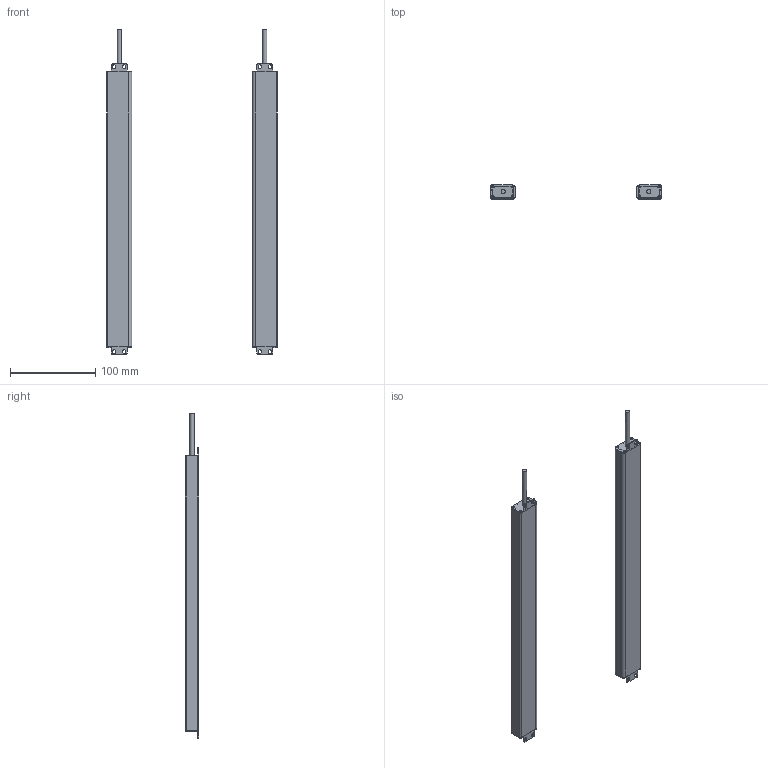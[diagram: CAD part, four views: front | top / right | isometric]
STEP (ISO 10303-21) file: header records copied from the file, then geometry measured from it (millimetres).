
FILE_DESCRIPTION(/* description */ (''),/* implementation_level */ '2;1');
FILE_NAME(/* name */ '1620（16X30ZW).stp',/* time_stamp */ '2020-07-14T19:08:43+08:00',/* author */ (''),/* organization */ (''),/* preprocessor_version */ 'ST-DEVELOPER v16',/* originating_system */ 'SIEMENS PLM Software NX 10.0',/* authorisation */ '');
FILE_SCHEMA (('AP203_CONFIGURATION_CONTROLLED_3D_DESIGN_OF_MECHANICAL_PARTS_AND_ASSEMBLIES_MIM_LF { 1 0 10303 403 2 1 2}'));
Length unit declared in the file: millimetre
Products named in the file (1): Admi58A03253m7en
Bounding box: 200 x 16 x 381.5 mm (x, y, z)
Volume: 95055.5 mm3; surface area: 140977.2 mm2
Topology: 10 solids, 10 shells, 296 faces, 830 edges, 554 vertices
Faces by surface type: plane 160, cylinder 136
Full cylindrical faces by diameter (mm): 5 x2
Entity records: 9760 total; most frequent: DIRECTION 1692, CARTESIAN_POINT 1675, ORIENTED_EDGE 1652, EDGE_CURVE 826, AXIS2_PLACEMENT_3D 569, LINE 554, VECTOR 554, VERTEX_POINT 552
